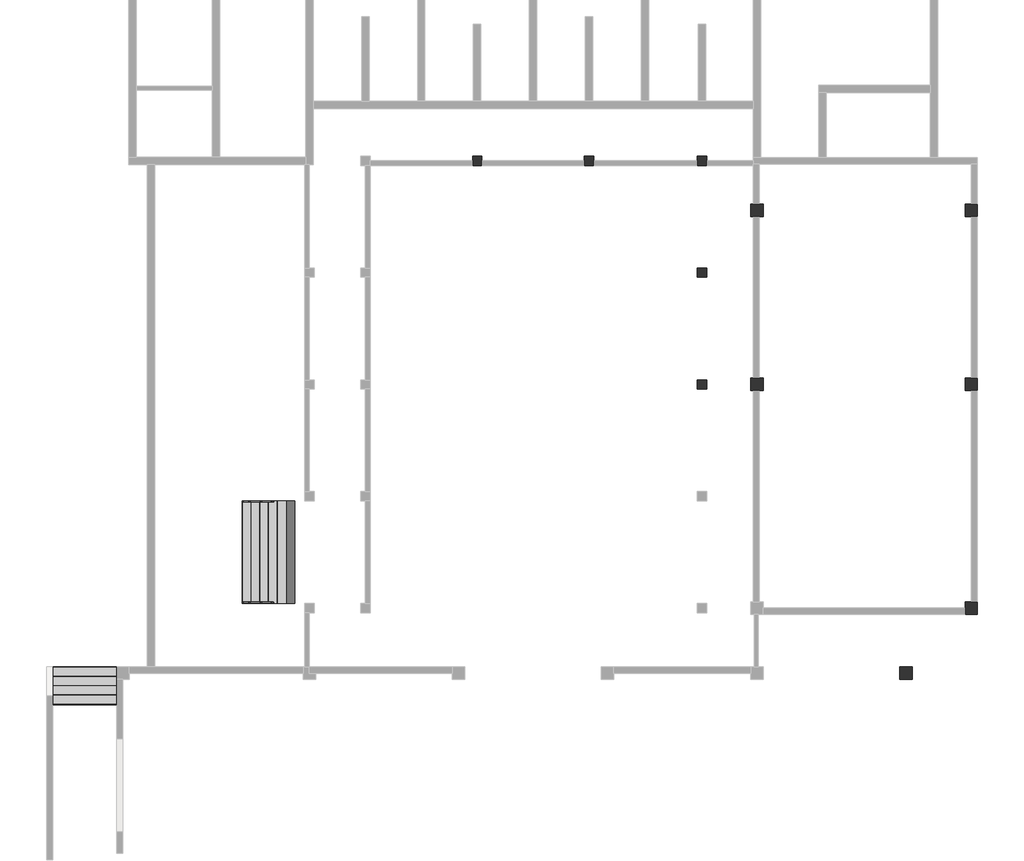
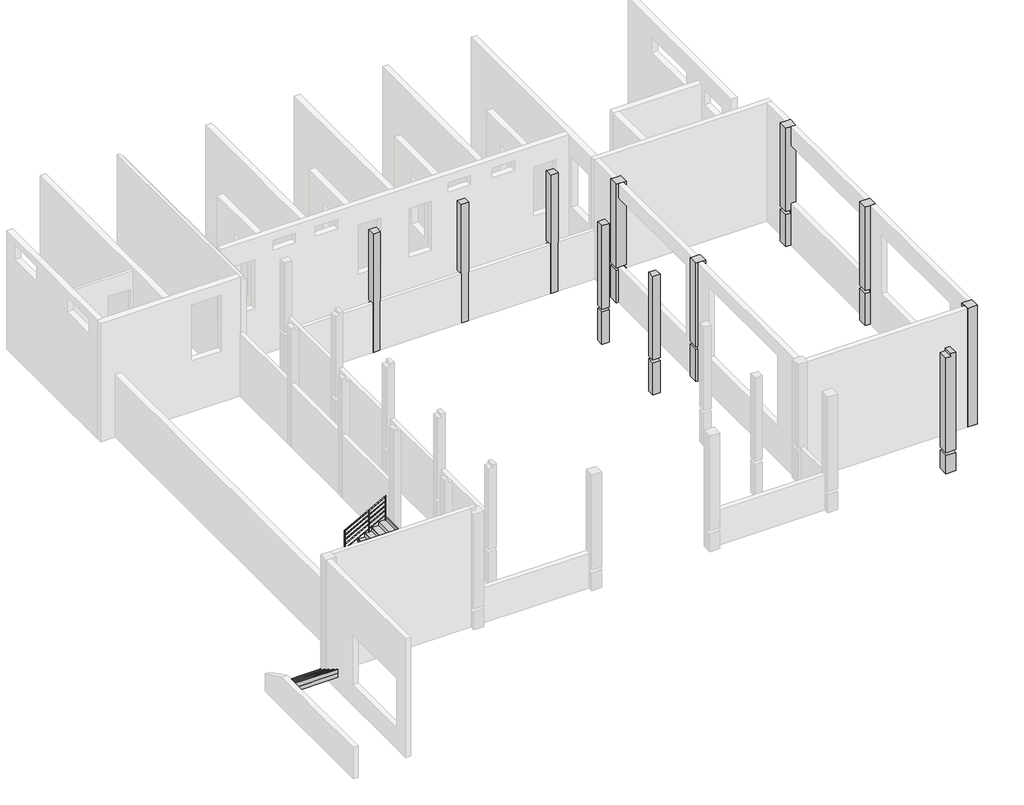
# One storey, part 3 of 3: 11 columns, 2 railings, 2 stair flights.
"""IFC4 building model written with IfcOpenShell, lengths in millimetres."""

from ifc_helpers import new_model, si_unit, frame, origin, origin_with_axes, place, context, project, spatial, polyline, circle_curve, ellipse_curve, outline, extrude, faceted_brep, element, save
from ifc_brep_helpers import plane_surface, cylinder_surface, advanced_brep

model = new_model("IFC4")

# Units and contexts
model_context = context("Model", 3, world=origin())
ifc_project = project(units=[si_unit("LENGTHUNIT", "METRE", prefix="MILLI")], contexts=[model_context])

# Site, building, storey
site = spatial("IfcSite", under=ifc_project)
building = spatial("IfcBuilding", under=site)
storey = spatial("IfcBuildingStorey", under=building, Name="室外地坪", Elevation=-900.0)

# Columns
placement = place(None, origin())
element("IfcColumn", 1, ObjectType="混凝土 - 矩形 - 柱 : Z1-400 x 400mm", at=placement, inside=storey, context=model_context, shape_type="Brep", body=[
    faceted_brep([(11736.7377372, 15644.1658649, -900.0), (11736.7377372, 15244.1658649, -900.0), (11616.7377372, 15244.1658649, -900.0), (11416.7377372, 15244.1658649, -900.0), (11336.7377372, 15244.1658649, -900.0), (11336.7377372, 15644.1658649, -900.0), (11416.7377372, 15644.1658649, -900.0), (11616.7377372, 15644.1658649, -900.0), (11736.7377372, 15244.1658649, 480.0), (11736.7377372, 15644.1658649, 480.0), (11336.7377372, 15644.1658649, 480.0), (11336.7377372, 15244.1658649, 480.0)], [[[0, 1, 2, 3, 4, 5, 6, 7]], [[8, 9, 10, 11]], [[1, 0, 9, 8]], [[4, 3, 2, 1, 8, 11]], [[5, 4, 11, 10]], [[0, 7, 6, 5, 10, 9]]]),
    faceted_brep([(11736.7377372, 15644.1658649, 4200.0), (11736.7377372, 15244.1658649, 4200.0), (11736.7377372, 15244.1658649, 600.0), (11736.7377372, 15644.1658649, 600.0), (11616.7377372, 15244.1658649, 4200.0), (11416.7377372, 15244.1658649, 4200.0), (11336.7377372, 15244.1658649, 4200.0), (11336.7377372, 15244.1658649, 600.0), (11336.7377372, 15644.1658649, 4200.0), (11336.7377372, 15644.1658649, 600.0), (11416.7377372, 15644.1658649, 4200.0), (11616.7377372, 15644.1658649, 4200.0)], [[[0, 1, 2, 3]], [[1, 4, 5, 6, 7, 2]], [[6, 8, 9, 7]], [[8, 10, 11, 0, 3, 9]], [[1, 0, 11, 10, 8, 6, 5, 4]], [[3, 2, 7, 9]]]),
])
element("IfcColumn", 2, ObjectType="混凝土 - 矩形 - 柱 : Z1-400 x 400mm", at=placement, inside=storey, context=model_context, shape_type="Brep", body=[
    faceted_brep([(18636.7377372, 15644.1658649, -900.0), (18636.7377372, 15244.1658649, -900.0), (18436.7377372, 15244.1658649, -900.0), (18236.7377372, 15244.1658649, -900.0), (18236.7377372, 15644.1658649, -900.0), (18436.7377372, 15644.1658649, -900.0), (18636.7377372, 15644.1658649, 4200.0), (18636.7377372, 15244.1658649, 4200.0), (18636.7377372, 15244.1658649, 3400.0), (18636.7377372, 15244.1658649, 900.0), (18436.7377372, 15244.1658649, 4200.0), (18236.7377372, 15244.1658649, 4200.0), (18236.7377372, 15244.1658649, 600.0), (18436.7377372, 15244.1658649, 600.0), (18436.7377372, 15244.1658649, 480.0), (18236.7377372, 15244.1658649, 480.0), (18236.7377372, 15644.1658649, 4200.0), (18236.7377372, 15644.1658649, 600.0), (18236.7377372, 15644.1658649, 480.0), (18436.7377372, 15644.1658649, 480.0), (18436.7377372, 15644.1658649, 600.0), (18436.7377372, 15644.1658649, 4200.0)], [[[0, 1, 2, 3, 4, 5]], [[1, 0, 6, 7, 8, 9]], [[3, 2, 1, 9, 8, 7, 10, 11, 12, 13, 14, 15]], [[11, 16, 17, 12]], [[0, 5, 4, 18, 19, 20, 17, 16, 21, 6]], [[7, 6, 21, 16, 11, 10]], [[14, 19, 18, 15]], [[20, 13, 12, 17]], [[19, 14, 13, 20]], [[4, 3, 15, 18]]]),
])
element("IfcColumn", 3, ObjectType="混凝土 - 矩形 - 柱 : Z1-400 x 400mm", at=placement, inside=storey, context=model_context, shape_type="Brep", body=[
    faceted_brep([(11736.7377372, 10044.1658649, -900.0), (11736.7377372, 9644.1658649, -900.0), (11616.7377372, 9644.1658649, -900.0), (11416.7377372, 9644.1658649, -900.0), (11336.7377372, 9644.1658649, -900.0), (11336.7377372, 10044.1658649, -900.0), (11416.7377372, 10044.1658649, -900.0), (11616.7377372, 10044.1658649, -900.0), (11736.7377372, 9644.1658649, 480.0), (11736.7377372, 10044.1658649, 480.0), (11336.7377372, 10044.1658649, 480.0), (11336.7377372, 9644.1658649, 480.0)], [[[0, 1, 2, 3, 4, 5, 6, 7]], [[8, 9, 10, 11]], [[1, 0, 9, 8]], [[4, 3, 2, 1, 8, 11]], [[5, 4, 11, 10]], [[0, 7, 6, 5, 10, 9]]]),
    faceted_brep([(11736.7377372, 10044.1658649, 4200.0), (11736.7377372, 9644.1658649, 4200.0), (11736.7377372, 9644.1658649, 600.0), (11736.7377372, 10044.1658649, 600.0), (11616.7377372, 9644.1658649, 4200.0), (11416.7377372, 9644.1658649, 4200.0), (11336.7377372, 9644.1658649, 4200.0), (11336.7377372, 9644.1658649, 600.0), (11336.7377372, 10044.1658649, 4200.0), (11336.7377372, 10044.1658649, 600.0), (11416.7377372, 10044.1658649, 4200.0), (11616.7377372, 10044.1658649, 4200.0)], [[[0, 1, 2, 3]], [[1, 4, 5, 6, 7, 2]], [[6, 8, 9, 7]], [[8, 10, 11, 0, 3, 9]], [[1, 0, 11, 10, 8, 6, 5, 4]], [[3, 2, 7, 9]]]),
])
element("IfcColumn", 4, ObjectType="混凝土 - 矩形 - 柱 : Z1-400 x 400mm", at=placement, inside=storey, context=model_context, shape_type="Brep", body=[
    faceted_brep([(18636.7377372, 10044.1658649, -900.0), (18636.7377372, 9644.1658649, -900.0), (18436.7377372, 9644.1658649, -900.0), (18236.7377372, 9644.1658649, -900.0), (18236.7377372, 10044.1658649, -900.0), (18436.7377372, 10044.1658649, -900.0), (18636.7377372, 10044.1658649, 4200.0), (18636.7377372, 9644.1658649, 4200.0), (18436.7377372, 9644.1658649, 4200.0), (18236.7377372, 9644.1658649, 4200.0), (18236.7377372, 9644.1658649, 600.0), (18436.7377372, 9644.1658649, 600.0), (18436.7377372, 9644.1658649, 480.0), (18236.7377372, 9644.1658649, 480.0), (18236.7377372, 10044.1658649, 4200.0), (18236.7377372, 10044.1658649, 600.0), (18236.7377372, 10044.1658649, 480.0), (18436.7377372, 10044.1658649, 480.0), (18436.7377372, 10044.1658649, 600.0), (18436.7377372, 10044.1658649, 4200.0)], [[[0, 1, 2, 3, 4, 5]], [[1, 0, 6, 7]], [[3, 2, 1, 7, 8, 9, 10, 11, 12, 13]], [[9, 14, 15, 10]], [[0, 5, 4, 16, 17, 18, 15, 14, 19, 6]], [[7, 6, 19, 14, 9, 8]], [[12, 17, 16, 13]], [[18, 11, 10, 15]], [[17, 12, 11, 18]], [[4, 3, 13, 16]]]),
])
element("IfcColumn", 5, ObjectType="混凝土 - 矩形 - 柱 : Z1-400 x 400mm", at=placement, inside=storey, context=model_context, shape_type="Brep", body=[
    faceted_brep([(18636.7377372, 2844.1658649, -900.0), (18636.7377372, 2444.1658649, -900.0), (18236.7377372, 2444.1658649, -900.0), (18236.7377372, 2644.1658649, -900.0), (18236.7377372, 2844.1658649, -900.0), (18436.7377372, 2844.1658649, -900.0), (18636.7377372, 2844.1658649, 4200.0), (18636.7377372, 2444.1658649, 4200.0), (18236.7377372, 2444.1658649, 4200.0), (18236.7377372, 2644.1658649, 4200.0), (18236.7377372, 2844.1658649, 4200.0), (18236.7377372, 2844.1658649, 600.0), (18236.7377372, 2644.1658649, 600.0), (18236.7377372, 2644.1658649, 480.0), (18236.7377372, 2844.1658649, 480.0), (18436.7377372, 2844.1658649, 480.0), (18436.7377372, 2844.1658649, 600.0), (18436.7377372, 2844.1658649, 4200.0), (18436.7377372, 2644.1658649, 480.0), (18436.7377372, 2644.1658649, 600.0)], [[[0, 1, 2, 3, 4, 5]], [[1, 0, 6, 7]], [[2, 1, 7, 8]], [[4, 3, 2, 8, 9, 10, 11, 12, 13, 14]], [[0, 5, 4, 14, 15, 16, 11, 10, 17, 6]], [[7, 6, 17, 10, 9, 8]], [[13, 18, 15, 14]], [[16, 19, 12, 11]], [[18, 19, 16, 15]], [[19, 18, 13, 12]]]),
])
element("IfcColumn", 6, ObjectType="混凝土 - 矩形 - 柱 : Z1-400 x 400mm", at=placement, inside=storey, context=model_context, shape_type="SweptSolid", body=[
    extrude(outline(polyline([(16536.7377372, 744.1658649), (16536.7377372, 344.1658649), (16136.7377372, 344.1658649), (16136.7377372, 744.1658649), (16536.7377372, 744.1658649)])), frame((0.0, 0.0, -900.0), z_axis=(0.0, 0.0, 1.0), x_axis=(1.0, 0.0, 0.0)), (0.0, 0.0, 1.0), 780.0),
    extrude(outline(polyline([(0.0, 16536.7377372), (4200.0, 16536.7377372), (4200.0, 16341.7377372), (4080.0, 16341.7377372), (4080.0, 16136.7377372), (0.0, 16136.7377372), (0.0, 16536.7377372)])), frame((0.0, 344.1658649, 0.0), z_axis=(0.0, 1.0, 0.0), x_axis=(0.0, 0.0, 1.0)), (0.0, 0.0, 1.0), 400.0),
])
element("IfcColumn", 7, ObjectType="混凝土 - 矩形 - 柱 : Z2-300 x 300mm", at=placement, inside=storey, context=model_context, shape_type="Brep", body=[
    faceted_brep([(9916.7377372, 17194.1658649, -900.0), (9916.7377372, 17044.1658649, -900.0), (9916.7377372, 16894.1658649, -900.0), (9616.7377372, 16894.1658649, -900.0), (9616.7377372, 17044.1658649, -900.0), (9616.7377372, 17194.1658649, -900.0), (9916.7377372, 17194.1658649, 1080.0), (9916.7377372, 17039.1658649, 1080.0), (9916.7377372, 17039.1658649, 1200.0), (9916.7377372, 17194.1658649, 1200.0), (9916.7377372, 17194.1658649, 4200.0), (9916.7377372, 16894.1658649, 4200.0), (9916.7377372, 16894.1658649, 1200.0), (9616.7377372, 16894.1658649, 4200.0), (9616.7377372, 16894.1658649, 1200.0), (9616.7377372, 17194.1658649, 4200.0), (9616.7377372, 17194.1658649, 1200.0), (9616.7377372, 17039.1658649, 1200.0), (9616.7377372, 17039.1658649, 1080.0), (9616.7377372, 17194.1658649, 1080.0)], [[[0, 1, 2, 3, 4, 5]], [[2, 1, 0, 6, 7, 8, 9, 10, 11, 12]], [[3, 2, 12, 11, 13, 14]], [[5, 4, 3, 14, 13, 15, 16, 17, 18, 19]], [[15, 10, 9, 16]], [[11, 10, 15, 13]], [[18, 7, 6, 19]], [[8, 17, 16, 9]], [[7, 18, 17, 8]], [[0, 5, 19, 6]]]),
])
element("IfcColumn", 8, ObjectType="混凝土 - 矩形 - 柱 : Z2-300 x 300mm", at=placement, inside=storey, context=model_context, shape_type="SweptSolid", body=[
    extrude(outline(polyline([(9916.7377372, 9994.1658649), (9916.7377372, 9694.1658649), (9616.7377372, 9694.1658649), (9616.7377372, 9994.1658649), (9916.7377372, 9994.1658649)])), frame((0.0, 0.0, -900.0), z_axis=(0.0, 0.0, 1.0), x_axis=(1.0, 0.0, 0.0)), (0.0, 0.0, 1.0), 1380.0),
    extrude(outline(polyline([(9916.7377372, 9994.1658649), (9916.7377372, 9694.1658649), (9616.7377372, 9694.1658649), (9616.7377372, 9994.1658649), (9916.7377372, 9994.1658649)])), frame((0.0, 0.0, 600.0), z_axis=(0.0, 0.0, 1.0), x_axis=(1.0, 0.0, 0.0)), (0.0, 0.0, 1.0), 3600.0),
])
element("IfcColumn", 9, ObjectType="混凝土 - 矩形 - 柱 : Z2-300 x 300mm", at=placement, inside=storey, context=model_context, shape_type="Brep", body=[
    faceted_brep([(2686.7377372, 17194.1658649, -900.0), (2686.7377372, 17044.1658649, -900.0), (2686.7377372, 16894.1658649, -900.0), (2386.7377372, 16894.1658649, -900.0), (2386.7377372, 17044.1658649, -900.0), (2386.7377372, 17194.1658649, -900.0), (2686.7377372, 17194.1658649, 1080.0), (2686.7377372, 17039.1658649, 1080.0), (2686.7377372, 17039.1658649, 1200.0), (2686.7377372, 17194.1658649, 1200.0), (2686.7377372, 17194.1658649, 4200.0), (2686.7377372, 16894.1658649, 4200.0), (2686.7377372, 16894.1658649, 1200.0), (2386.7377372, 16894.1658649, 4200.0), (2386.7377372, 16894.1658649, 1200.0), (2386.7377372, 17194.1658649, 4200.0), (2386.7377372, 17194.1658649, 1200.0), (2386.7377372, 17039.1658649, 1200.0), (2386.7377372, 17039.1658649, 1080.0), (2386.7377372, 17194.1658649, 1080.0)], [[[0, 1, 2, 3, 4, 5]], [[2, 1, 0, 6, 7, 8, 9, 10, 11, 12]], [[3, 2, 12, 11, 13, 14]], [[5, 4, 3, 14, 13, 15, 16, 17, 18, 19]], [[15, 10, 9, 16]], [[11, 10, 15, 13]], [[18, 7, 6, 19]], [[8, 17, 16, 9]], [[7, 18, 17, 8]], [[0, 5, 19, 6]]]),
])
element("IfcColumn", 10, ObjectType="混凝土 - 矩形 - 柱 : Z2-300 x 300mm", at=placement, inside=storey, context=model_context, shape_type="Brep", body=[
    faceted_brep([(6286.7377372, 17194.1658649, -900.0), (6286.7377372, 17044.1658649, -900.0), (6286.7377372, 16894.1658649, -900.0), (5986.7377372, 16894.1658649, -900.0), (5986.7377372, 17044.1658649, -900.0), (5986.7377372, 17194.1658649, -900.0), (6286.7377372, 17194.1658649, 1080.0), (6286.7377372, 17039.1658649, 1080.0), (6286.7377372, 17039.1658649, 1200.0), (6286.7377372, 17194.1658649, 1200.0), (6286.7377372, 17194.1658649, 4200.0), (6286.7377372, 16894.1658649, 4200.0), (6286.7377372, 16894.1658649, 1200.0), (5986.7377372, 16894.1658649, 4200.0), (5986.7377372, 16894.1658649, 1200.0), (5986.7377372, 17194.1658649, 4200.0), (5986.7377372, 17194.1658649, 1200.0), (5986.7377372, 17039.1658649, 1200.0), (5986.7377372, 17039.1658649, 1080.0), (5986.7377372, 17194.1658649, 1080.0)], [[[0, 1, 2, 3, 4, 5]], [[2, 1, 0, 6, 7, 8, 9, 10, 11, 12]], [[3, 2, 12, 11, 13, 14]], [[5, 4, 3, 14, 13, 15, 16, 17, 18, 19]], [[15, 10, 9, 16]], [[11, 10, 15, 13]], [[18, 7, 6, 19]], [[8, 17, 16, 9]], [[7, 18, 17, 8]], [[0, 5, 19, 6]]]),
])
element("IfcColumn", 11, ObjectType="混凝土 - 矩形 - 柱 : Z2-300 x 300mm", at=placement, inside=storey, context=model_context, shape_type="SweptSolid", body=[
    extrude(outline(polyline([(9916.7377372, 13594.1658649), (9916.7377372, 13294.1658649), (9616.7377372, 13294.1658649), (9616.7377372, 13594.1658649), (9916.7377372, 13594.1658649)])), frame((0.0, 0.0, -900.0), z_axis=(0.0, 0.0, 1.0), x_axis=(1.0, 0.0, 0.0)), (0.0, 0.0, 1.0), 1380.0),
    extrude(outline(polyline([(9916.7377372, 13594.1658649), (9916.7377372, 13294.1658649), (9616.7377372, 13294.1658649), (9616.7377372, 13594.1658649), (9916.7377372, 13594.1658649)])), frame((0.0, 0.0, 600.0), z_axis=(0.0, 0.0, 1.0), x_axis=(1.0, 0.0, 0.0)), (0.0, 0.0, 1.0), 3600.0),
])

# Railings
element("IfcRailing", 12, ObjectType="900mm 圆管", at=placement, inside=storey, context=model_context, shape_type="AdvancedBrep", body=[
    advanced_brep(
    [(-5021.5534658, 2804.8548575, 577.3108855), (-5021.5534658, 2844.8548575, 577.3108855), (-3341.5534658, 2804.8548575, 1477.3108855), (-3341.5534658, 2844.8548575, 1477.3108855)],
    [
        (0, 1, ellipse_curve(frame((-5021.5534658, 2824.8548575, 577.3108855), z_axis=(-1.0, 0.0, 0.0), x_axis=(0.0, 0.0, -1.0)), 22.6891145, 20.0)),
        (1, 0, ellipse_curve(frame((-5021.5534658, 2824.8548575, 577.3108855), z_axis=(-1.0, 0.0, 0.0), x_axis=(0.0, 0.0, -1.0)), 22.6891145, 20.0)),
        (2, 3, ellipse_curve(frame((-3341.5534658, 2824.8548575, 1477.3108855), z_axis=(1.0, 0.0, 0.0), x_axis=(0.0, 0.0, -1.0)), 22.6891145, 20.0)),
        (3, 2, ellipse_curve(frame((-3341.5534658, 2824.8548575, 1477.3108855), z_axis=(1.0, 0.0, 0.0), x_axis=(0.0, 0.0, -1.0)), 22.6891145, 20.0)),
        (0, 2),
        (3, 1),
    ],
    [
        plane_surface(frame((-5021.5534658, 2824.8548575, 600.0), z_axis=(-1.0, 0.0, 0.0), x_axis=(0.0, 1.0, 0.0))),
        plane_surface(frame((-3341.5534658, 2824.8548575, 1500.0), z_axis=(1.0, 0.0, 0.0), x_axis=(0.0, 1.0, 0.0))),
        cylinder_surface(frame((-5012.1090375, 2824.8548575, 582.3704006), z_axis=(-0.881479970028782, 0.0, -0.47222141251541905), x_axis=(0.0, 1.0, 0.0)), 20.0),
    ],
    [
        (0, [[1, 2]]),
        (1, [[3, 4]]),
        (2, [[-1, 5, -4, 6]]),
        (2, [[-2, -6, -3, -5]]),
    ],
),
    advanced_brep(
    [(-5021.5534658, 2839.8548575, 382.9831641), (-5021.5534658, 2809.8548575, 382.9831641), (-3341.5534658, 2839.8548575, 1282.9831641), (-3341.5534658, 2809.8548575, 1282.9831641)],
    [
        (0, 1, ellipse_curve(frame((-5021.5534658, 2824.8548575, 382.9831641), z_axis=(-1.0, 0.0, 0.0), x_axis=(0.0, 0.0, -1.0)), 17.0168359, 15.0)),
        (1, 0, ellipse_curve(frame((-5021.5534658, 2824.8548575, 382.9831641), z_axis=(-1.0, 0.0, 0.0), x_axis=(0.0, 0.0, -1.0)), 17.0168359, 15.0)),
        (2, 3, ellipse_curve(frame((-3341.5534658, 2824.8548575, 1282.9831641), z_axis=(1.0, 0.0, 0.0), x_axis=(0.0, 0.0, -1.0)), 17.0168359, 15.0)),
        (3, 2, ellipse_curve(frame((-3341.5534658, 2824.8548575, 1282.9831641), z_axis=(1.0, 0.0, 0.0), x_axis=(0.0, 0.0, -1.0)), 17.0168359, 15.0)),
        (0, 2),
        (3, 1),
    ],
    [
        plane_surface(frame((-5021.5534658, 2824.8548575, 400.0), z_axis=(-1.0, 0.0, 0.0), x_axis=(0.0, 1.0, 0.0))),
        plane_surface(frame((-3341.5534658, 2824.8548575, 1300.0), z_axis=(1.0, 0.0, 0.0), x_axis=(0.0, 1.0, 0.0))),
        cylinder_surface(frame((-5014.4701446, 2824.8548575, 386.7778004), z_axis=(-0.881479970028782, 0.0, -0.47222141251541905), x_axis=(0.0, -1.0, 0.0)), 15.0),
    ],
    [
        (0, [[1, 2]]),
        (1, [[3, 4]]),
        (2, [[-1, 5, -4, 6]]),
        (2, [[-2, -6, -3, -5]]),
    ],
),
    advanced_brep(
    [(-5021.5534658, 2839.8548575, 182.9831641), (-5021.5534658, 2809.8548575, 182.9831641), (-3341.5534658, 2839.8548575, 1082.9831641), (-3341.5534658, 2809.8548575, 1082.9831641)],
    [
        (0, 1, ellipse_curve(frame((-5021.5534658, 2824.8548575, 182.9831641), z_axis=(-1.0, 0.0, 0.0), x_axis=(0.0, 0.0, -1.0)), 17.0168359, 15.0)),
        (1, 0, ellipse_curve(frame((-5021.5534658, 2824.8548575, 182.9831641), z_axis=(-1.0, 0.0, 0.0), x_axis=(0.0, 0.0, -1.0)), 17.0168359, 15.0)),
        (2, 3, ellipse_curve(frame((-3341.5534658, 2824.8548575, 1082.9831641), z_axis=(1.0, 0.0, 0.0), x_axis=(0.0, 0.0, -1.0)), 17.0168359, 15.0)),
        (3, 2, ellipse_curve(frame((-3341.5534658, 2824.8548575, 1082.9831641), z_axis=(1.0, 0.0, 0.0), x_axis=(0.0, 0.0, -1.0)), 17.0168359, 15.0)),
        (0, 2),
        (3, 1),
    ],
    [
        plane_surface(frame((-5021.5534658, 2824.8548575, 200.0), z_axis=(-1.0, 0.0, 0.0), x_axis=(0.0, 1.0, 0.0))),
        plane_surface(frame((-3341.5534658, 2824.8548575, 1100.0), z_axis=(1.0, 0.0, 0.0), x_axis=(0.0, 1.0, 0.0))),
        cylinder_surface(frame((-5014.4701446, 2824.8548575, 186.7778004), z_axis=(-0.881479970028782, 0.0, -0.47222141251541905), x_axis=(0.0, -1.0, 0.0)), 15.0),
    ],
    [
        (0, [[1, 2]]),
        (1, [[3, 4]]),
        (2, [[-1, 5, -4, 6]]),
        (2, [[-2, -6, -3, -5]]),
    ],
),
    advanced_brep(
    [(-5021.5534658, 2839.8548575, -17.0168359), (-5021.5534658, 2809.8548575, -17.0168359), (-3341.5534658, 2839.8548575, 882.9831641), (-3341.5534658, 2809.8548575, 882.9831641)],
    [
        (0, 1, ellipse_curve(frame((-5021.5534658, 2824.8548575, -17.0168359), z_axis=(-1.0, 0.0, 0.0), x_axis=(0.0, 0.0, -1.0)), 17.0168359, 15.0)),
        (1, 0, ellipse_curve(frame((-5021.5534658, 2824.8548575, -17.0168359), z_axis=(-1.0, 0.0, 0.0), x_axis=(0.0, 0.0, -1.0)), 17.0168359, 15.0)),
        (2, 3, ellipse_curve(frame((-3341.5534658, 2824.8548575, 882.9831641), z_axis=(1.0, 0.0, 0.0), x_axis=(0.0, 0.0, -1.0)), 17.0168359, 15.0)),
        (3, 2, ellipse_curve(frame((-3341.5534658, 2824.8548575, 882.9831641), z_axis=(1.0, 0.0, 0.0), x_axis=(0.0, 0.0, -1.0)), 17.0168359, 15.0)),
        (0, 2),
        (3, 1),
    ],
    [
        plane_surface(frame((-5021.5534658, 2824.8548575, 0.0), z_axis=(-1.0, 0.0, 0.0), x_axis=(0.0, 1.0, 0.0))),
        plane_surface(frame((-3341.5534658, 2824.8548575, 900.0), z_axis=(1.0, 0.0, 0.0), x_axis=(0.0, 1.0, 0.0))),
        cylinder_surface(frame((-5014.4701446, 2824.8548575, -13.2221996), z_axis=(-0.881479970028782, 0.0, -0.47222141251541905), x_axis=(0.0, -1.0, 0.0)), 15.0),
    ],
    [
        (0, [[1, 2]]),
        (1, [[3, 4]]),
        (2, [[-1, 5, -4, 6]]),
        (2, [[-2, -6, -3, -5]]),
    ],
),
    advanced_brep(
    [(-5021.5534658, 2839.8548575, -217.0168359), (-5021.5534658, 2809.8548575, -217.0168359), (-3341.5534658, 2839.8548575, 682.9831641), (-3341.5534658, 2809.8548575, 682.9831641)],
    [
        (0, 1, ellipse_curve(frame((-5021.5534658, 2824.8548575, -217.0168359), z_axis=(-1.0, 0.0, 0.0), x_axis=(0.0, 0.0, -1.0)), 17.0168359, 15.0)),
        (1, 0, ellipse_curve(frame((-5021.5534658, 2824.8548575, -217.0168359), z_axis=(-1.0, 0.0, 0.0), x_axis=(0.0, 0.0, -1.0)), 17.0168359, 15.0)),
        (2, 3, ellipse_curve(frame((-3341.5534658, 2824.8548575, 682.9831641), z_axis=(1.0, 0.0, 0.0), x_axis=(0.0, 0.0, -1.0)), 17.0168359, 15.0)),
        (3, 2, ellipse_curve(frame((-3341.5534658, 2824.8548575, 682.9831641), z_axis=(1.0, 0.0, 0.0), x_axis=(0.0, 0.0, -1.0)), 17.0168359, 15.0)),
        (0, 2),
        (3, 1),
    ],
    [
        plane_surface(frame((-5021.5534658, 2824.8548575, -200.0), z_axis=(-1.0, 0.0, 0.0), x_axis=(0.0, 1.0, 0.0))),
        plane_surface(frame((-3341.5534658, 2824.8548575, 700.0), z_axis=(1.0, 0.0, 0.0), x_axis=(0.0, 1.0, 0.0))),
        cylinder_surface(frame((-5014.4701446, 2824.8548575, -213.2221996), z_axis=(-0.881479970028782, 0.0, -0.47222141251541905), x_axis=(0.0, -1.0, 0.0)), 15.0),
    ],
    [
        (0, [[1, 2]]),
        (1, [[3, 4]]),
        (2, [[-1, 5, -4, 6]]),
        (2, [[-2, -6, -3, -5]]),
    ],
),
    advanced_brep(
    [(-4021.5534658, 2812.3548575, 1090.3360566), (-4021.5534658, 2812.3548575, 150.0), (-4021.5534658, 2837.3548575, 150.0), (-4021.5534658, 2837.3548575, 1090.3360566)],
    [
        (0, 1),
        (1, 2, circle_curve(frame((-4021.5534658, 2824.8548575, 150.0), z_axis=(0.0, 0.0, 1.0), x_axis=(0.0, 1.0, 0.0)), 12.5)),
        (2, 3),
        (3, 0, ellipse_curve(frame((-4021.5534658, 2824.8548575, 1090.3360566), z_axis=(0.472221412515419, 0.0, -0.8814799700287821), x_axis=(0.8814799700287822, 0.0, 0.47222141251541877)), 14.1806966, 12.5)),
        (0, 3, ellipse_curve(frame((-4021.5534658, 2824.8548575, 1090.3360566), z_axis=(0.472221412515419, 0.0, -0.8814799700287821), x_axis=(0.8814799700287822, 0.0, 0.47222141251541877)), 14.1806966, 12.5)),
        (2, 1, circle_curve(frame((-4021.5534658, 2824.8548575, 150.0), z_axis=(0.0, 0.0, 1.0), x_axis=(0.0, 1.0, 0.0)), 12.5)),
    ],
    [
        cylinder_surface(frame((-4021.5534658, 2824.8548575, 50.0), z_axis=(0.0, 0.0, 1.0), x_axis=(0.0, 1.0, 0.0)), 12.5),
        plane_surface(frame((-3996.5534658, 2849.8548575, 1103.7289138), z_axis=(-0.472221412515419, 0.0, 0.8814799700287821), x_axis=(0.0, -1.0, 0.0))),
        plane_surface(frame((-4046.5534658, 2849.8548575, 150.0), z_axis=(0.0, 0.0, -1.0), x_axis=(0.0, -1.0, 0.0))),
    ],
    [
        (0, [[1, 2, 3, 4]]),
        (0, [[-1, 5, -3, 6]]),
        (1, [[-4, -5]]),
        (2, [[-2, -6]]),
    ],
),
    advanced_brep(
    [(-3354.0534658, 2812.3548575, 1447.9253424), (-3354.0534658, 2812.3548575, 450.0), (-3354.0534658, 2837.3548575, 450.0), (-3354.0534658, 2837.3548575, 1447.9253424)],
    [
        (0, 1),
        (1, 2, circle_curve(frame((-3354.0534658, 2824.8548575, 450.0), z_axis=(0.0, 0.0, 1.0), x_axis=(0.0, 1.0, 0.0)), 12.5)),
        (2, 3),
        (3, 0, ellipse_curve(frame((-3354.0534658, 2824.8548575, 1447.9253424), z_axis=(0.472221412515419, 0.0, -0.8814799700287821), x_axis=(0.8814799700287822, 0.0, 0.47222141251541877)), 14.1806966, 12.5)),
        (0, 3, ellipse_curve(frame((-3354.0534658, 2824.8548575, 1447.9253424), z_axis=(0.472221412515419, 0.0, -0.8814799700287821), x_axis=(0.8814799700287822, 0.0, 0.47222141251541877)), 14.1806966, 12.5)),
        (2, 1, circle_curve(frame((-3354.0534658, 2824.8548575, 450.0), z_axis=(0.0, 0.0, 1.0), x_axis=(0.0, 1.0, 0.0)), 12.5)),
    ],
    [
        cylinder_surface(frame((-3354.0534658, 2824.8548575, 350.0), z_axis=(0.0, 0.0, 1.0), x_axis=(0.0, 1.0, 0.0)), 12.5),
        plane_surface(frame((-3329.0534658, 2849.8548575, 1461.3181995), z_axis=(-0.472221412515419, 0.0, 0.8814799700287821), x_axis=(0.0, -1.0, 0.0))),
        plane_surface(frame((-3379.0534658, 2849.8548575, 450.0), z_axis=(0.0, 0.0, -1.0), x_axis=(0.0, -1.0, 0.0))),
    ],
    [
        (0, [[1, 2, 3, 4]]),
        (0, [[-1, 5, -3, 6]]),
        (1, [[-4, -5]]),
        (2, [[-2, -6]]),
    ],
),
    advanced_brep(
    [(-5009.0534658, 2812.3548575, 561.3181995), (-5009.0534658, 2812.3548575, -300.0), (-5009.0534658, 2837.3548575, -300.0), (-5009.0534658, 2837.3548575, 561.3181995)],
    [
        (0, 1),
        (1, 2, circle_curve(frame((-5009.0534658, 2824.8548575, -300.0), z_axis=(0.0, 0.0, 1.0), x_axis=(0.0, 1.0, 0.0)), 12.5)),
        (2, 3),
        (3, 0, ellipse_curve(frame((-5009.0534658, 2824.8548575, 561.3181995), z_axis=(0.472221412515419, 0.0, -0.8814799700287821), x_axis=(0.8814799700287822, 0.0, 0.47222141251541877)), 14.1806966, 12.5)),
        (0, 3, ellipse_curve(frame((-5009.0534658, 2824.8548575, 561.3181995), z_axis=(0.472221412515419, 0.0, -0.8814799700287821), x_axis=(0.8814799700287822, 0.0, 0.47222141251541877)), 14.1806966, 12.5)),
        (2, 1, circle_curve(frame((-5009.0534658, 2824.8548575, -300.0), z_axis=(0.0, 0.0, 1.0), x_axis=(0.0, 1.0, 0.0)), 12.5)),
    ],
    [
        cylinder_surface(frame((-5009.0534658, 2824.8548575, -400.0), z_axis=(0.0, 0.0, 1.0), x_axis=(0.0, 1.0, 0.0)), 12.5),
        plane_surface(frame((-4984.0534658, 2849.8548575, 574.7110566), z_axis=(-0.472221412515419, 0.0, 0.8814799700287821), x_axis=(0.0, -1.0, 0.0))),
        plane_surface(frame((-5034.0534658, 2849.8548575, -300.0), z_axis=(0.0, 0.0, -1.0), x_axis=(0.0, -1.0, 0.0))),
    ],
    [
        (0, [[1, 2, 3, 4]]),
        (0, [[-1, 5, -3, 6]]),
        (1, [[-4, -5]]),
        (2, [[-2, -6]]),
    ],
),
])
element("IfcRailing", 13, ObjectType="900mm 圆管", at=placement, inside=storey, context=model_context, shape_type="AdvancedBrep", body=[
    advanced_brep(
    [(-5021.5534658, 6054.0548575, 577.3108855), (-5021.5534658, 6094.0548575, 577.3108855), (-3341.5534658, 6054.0548575, 1477.3108855), (-3341.5534658, 6094.0548575, 1477.3108855)],
    [
        (0, 1, ellipse_curve(frame((-5021.5534658, 6074.0548575, 577.3108855), z_axis=(-1.0, 0.0, 0.0), x_axis=(0.0, 0.0, -1.0)), 22.6891145, 20.0)),
        (1, 0, ellipse_curve(frame((-5021.5534658, 6074.0548575, 577.3108855), z_axis=(-1.0, 0.0, 0.0), x_axis=(0.0, 0.0, -1.0)), 22.6891145, 20.0)),
        (2, 3, ellipse_curve(frame((-3341.5534658, 6074.0548575, 1477.3108855), z_axis=(1.0, 0.0, 0.0), x_axis=(0.0, 0.0, -1.0)), 22.6891145, 20.0)),
        (3, 2, ellipse_curve(frame((-3341.5534658, 6074.0548575, 1477.3108855), z_axis=(1.0, 0.0, 0.0), x_axis=(0.0, 0.0, -1.0)), 22.6891145, 20.0)),
        (0, 2),
        (3, 1),
    ],
    [
        plane_surface(frame((-5021.5534658, 6074.0548575, 600.0), z_axis=(-1.0, 0.0, 0.0), x_axis=(0.0, 1.0, 0.0))),
        plane_surface(frame((-3341.5534658, 6074.0548575, 1500.0), z_axis=(1.0, 0.0, 0.0), x_axis=(0.0, 1.0, 0.0))),
        cylinder_surface(frame((-5012.1090375, 6074.0548575, 582.3704006), z_axis=(-0.881479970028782, 0.0, -0.47222141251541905), x_axis=(0.0, 1.0, 0.0)), 20.0),
    ],
    [
        (0, [[1, 2]]),
        (1, [[3, 4]]),
        (2, [[-1, 5, -4, 6]]),
        (2, [[-2, -6, -3, -5]]),
    ],
),
    advanced_brep(
    [(-5021.5534658, 6059.0548575, 382.9831641), (-5021.5534658, 6089.0548575, 382.9831641), (-3341.5534658, 6059.0548575, 1282.9831641), (-3341.5534658, 6089.0548575, 1282.9831641)],
    [
        (0, 1, ellipse_curve(frame((-5021.5534658, 6074.0548575, 382.9831641), z_axis=(-1.0, 0.0, 0.0), x_axis=(0.0, 0.0, -1.0)), 17.0168359, 15.0)),
        (1, 0, ellipse_curve(frame((-5021.5534658, 6074.0548575, 382.9831641), z_axis=(-1.0, 0.0, 0.0), x_axis=(0.0, 0.0, -1.0)), 17.0168359, 15.0)),
        (2, 3, ellipse_curve(frame((-3341.5534658, 6074.0548575, 1282.9831641), z_axis=(1.0, 0.0, 0.0), x_axis=(0.0, 0.0, -1.0)), 17.0168359, 15.0)),
        (3, 2, ellipse_curve(frame((-3341.5534658, 6074.0548575, 1282.9831641), z_axis=(1.0, 0.0, 0.0), x_axis=(0.0, 0.0, -1.0)), 17.0168359, 15.0)),
        (0, 2),
        (3, 1),
    ],
    [
        plane_surface(frame((-5021.5534658, 6074.0548575, 400.0), z_axis=(-1.0, 0.0, 0.0), x_axis=(0.0, 1.0, 0.0))),
        plane_surface(frame((-3341.5534658, 6074.0548575, 1300.0), z_axis=(1.0, 0.0, 0.0), x_axis=(0.0, 1.0, 0.0))),
        cylinder_surface(frame((-5014.4701446, 6074.0548575, 386.7778004), z_axis=(-0.881479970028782, 0.0, -0.47222141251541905), x_axis=(0.0, 1.0, 0.0)), 15.0),
    ],
    [
        (0, [[1, 2]]),
        (1, [[3, 4]]),
        (2, [[-1, 5, -4, 6]]),
        (2, [[-2, -6, -3, -5]]),
    ],
),
    advanced_brep(
    [(-5021.5534658, 6059.0548575, 182.9831641), (-5021.5534658, 6089.0548575, 182.9831641), (-3341.5534658, 6059.0548575, 1082.9831641), (-3341.5534658, 6089.0548575, 1082.9831641)],
    [
        (0, 1, ellipse_curve(frame((-5021.5534658, 6074.0548575, 182.9831641), z_axis=(-1.0, 0.0, 0.0), x_axis=(0.0, 0.0, -1.0)), 17.0168359, 15.0)),
        (1, 0, ellipse_curve(frame((-5021.5534658, 6074.0548575, 182.9831641), z_axis=(-1.0, 0.0, 0.0), x_axis=(0.0, 0.0, -1.0)), 17.0168359, 15.0)),
        (2, 3, ellipse_curve(frame((-3341.5534658, 6074.0548575, 1082.9831641), z_axis=(1.0, 0.0, 0.0), x_axis=(0.0, 0.0, -1.0)), 17.0168359, 15.0)),
        (3, 2, ellipse_curve(frame((-3341.5534658, 6074.0548575, 1082.9831641), z_axis=(1.0, 0.0, 0.0), x_axis=(0.0, 0.0, -1.0)), 17.0168359, 15.0)),
        (0, 2),
        (3, 1),
    ],
    [
        plane_surface(frame((-5021.5534658, 6074.0548575, 200.0), z_axis=(-1.0, 0.0, 0.0), x_axis=(0.0, 1.0, 0.0))),
        plane_surface(frame((-3341.5534658, 6074.0548575, 1100.0), z_axis=(1.0, 0.0, 0.0), x_axis=(0.0, 1.0, 0.0))),
        cylinder_surface(frame((-5014.4701446, 6074.0548575, 186.7778004), z_axis=(-0.881479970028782, 0.0, -0.47222141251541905), x_axis=(0.0, 1.0, 0.0)), 15.0),
    ],
    [
        (0, [[1, 2]]),
        (1, [[3, 4]]),
        (2, [[-1, 5, -4, 6]]),
        (2, [[-2, -6, -3, -5]]),
    ],
),
    advanced_brep(
    [(-5021.5534658, 6059.0548575, -17.0168359), (-5021.5534658, 6089.0548575, -17.0168359), (-3341.5534658, 6059.0548575, 882.9831641), (-3341.5534658, 6089.0548575, 882.9831641)],
    [
        (0, 1, ellipse_curve(frame((-5021.5534658, 6074.0548575, -17.0168359), z_axis=(-1.0, 0.0, 0.0), x_axis=(0.0, 0.0, -1.0)), 17.0168359, 15.0)),
        (1, 0, ellipse_curve(frame((-5021.5534658, 6074.0548575, -17.0168359), z_axis=(-1.0, 0.0, 0.0), x_axis=(0.0, 0.0, -1.0)), 17.0168359, 15.0)),
        (2, 3, ellipse_curve(frame((-3341.5534658, 6074.0548575, 882.9831641), z_axis=(1.0, 0.0, 0.0), x_axis=(0.0, 0.0, -1.0)), 17.0168359, 15.0)),
        (3, 2, ellipse_curve(frame((-3341.5534658, 6074.0548575, 882.9831641), z_axis=(1.0, 0.0, 0.0), x_axis=(0.0, 0.0, -1.0)), 17.0168359, 15.0)),
        (0, 2),
        (3, 1),
    ],
    [
        plane_surface(frame((-5021.5534658, 6074.0548575, 0.0), z_axis=(-1.0, 0.0, 0.0), x_axis=(0.0, 1.0, 0.0))),
        plane_surface(frame((-3341.5534658, 6074.0548575, 900.0), z_axis=(1.0, 0.0, 0.0), x_axis=(0.0, 1.0, 0.0))),
        cylinder_surface(frame((-5014.4701446, 6074.0548575, -13.2221996), z_axis=(-0.881479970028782, 0.0, -0.47222141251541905), x_axis=(0.0, 1.0, 0.0)), 15.0),
    ],
    [
        (0, [[1, 2]]),
        (1, [[3, 4]]),
        (2, [[-1, 5, -4, 6]]),
        (2, [[-2, -6, -3, -5]]),
    ],
),
    advanced_brep(
    [(-5021.5534658, 6059.0548575, -217.0168359), (-5021.5534658, 6089.0548575, -217.0168359), (-3341.5534658, 6059.0548575, 682.9831641), (-3341.5534658, 6089.0548575, 682.9831641)],
    [
        (0, 1, ellipse_curve(frame((-5021.5534658, 6074.0548575, -217.0168359), z_axis=(-1.0, 0.0, 0.0), x_axis=(0.0, 0.0, -1.0)), 17.0168359, 15.0)),
        (1, 0, ellipse_curve(frame((-5021.5534658, 6074.0548575, -217.0168359), z_axis=(-1.0, 0.0, 0.0), x_axis=(0.0, 0.0, -1.0)), 17.0168359, 15.0)),
        (2, 3, ellipse_curve(frame((-3341.5534658, 6074.0548575, 682.9831641), z_axis=(1.0, 0.0, 0.0), x_axis=(0.0, 0.0, -1.0)), 17.0168359, 15.0)),
        (3, 2, ellipse_curve(frame((-3341.5534658, 6074.0548575, 682.9831641), z_axis=(1.0, 0.0, 0.0), x_axis=(0.0, 0.0, -1.0)), 17.0168359, 15.0)),
        (0, 2),
        (3, 1),
    ],
    [
        plane_surface(frame((-5021.5534658, 6074.0548575, -200.0), z_axis=(-1.0, 0.0, 0.0), x_axis=(0.0, 1.0, 0.0))),
        plane_surface(frame((-3341.5534658, 6074.0548575, 700.0), z_axis=(1.0, 0.0, 0.0), x_axis=(0.0, 1.0, 0.0))),
        cylinder_surface(frame((-5014.4701446, 6074.0548575, -213.2221996), z_axis=(-0.881479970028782, 0.0, -0.47222141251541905), x_axis=(0.0, 1.0, 0.0)), 15.0),
    ],
    [
        (0, [[1, 2]]),
        (1, [[3, 4]]),
        (2, [[-1, 5, -4, 6]]),
        (2, [[-2, -6, -3, -5]]),
    ],
),
    advanced_brep(
    [(-4021.5534658, 6086.5548575, 1090.3360566), (-4021.5534658, 6061.5548575, 1090.3360566), (-4021.5534658, 6061.5548575, 150.0), (-4021.5534658, 6086.5548575, 150.0)],
    [
        (0, 1, ellipse_curve(frame((-4021.5534658, 6074.0548575, 1090.3360566), z_axis=(0.472221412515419, 0.0, -0.8814799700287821), x_axis=(0.8814799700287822, 0.0, 0.47222141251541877)), 14.1806966, 12.5)),
        (1, 2),
        (2, 3, circle_curve(frame((-4021.5534658, 6074.0548575, 150.0), z_axis=(0.0, 0.0, 1.0), x_axis=(0.0, -1.0, 0.0)), 12.5)),
        (3, 0),
        (3, 2, circle_curve(frame((-4021.5534658, 6074.0548575, 150.0), z_axis=(0.0, 0.0, 1.0), x_axis=(0.0, -1.0, 0.0)), 12.5)),
        (1, 0, ellipse_curve(frame((-4021.5534658, 6074.0548575, 1090.3360566), z_axis=(0.472221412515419, 0.0, -0.8814799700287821), x_axis=(0.8814799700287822, 0.0, 0.47222141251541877)), 14.1806966, 12.5)),
    ],
    [
        cylinder_surface(frame((-4021.5534658, 6074.0548575, 50.0), z_axis=(0.0, 0.0, 1.0), x_axis=(0.0, -1.0, 0.0)), 12.5),
        plane_surface(frame((-3996.5534658, 6049.0548575, 1103.7289138), z_axis=(-0.472221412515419, 0.0, 0.8814799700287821), x_axis=(0.0, 1.0, 0.0))),
        plane_surface(frame((-4046.5534658, 6049.0548575, 150.0), z_axis=(0.0, 0.0, -1.0), x_axis=(0.0, 1.0, 0.0))),
    ],
    [
        (0, [[1, 2, 3, 4]]),
        (0, [[5, -2, 6, -4]]),
        (1, [[-6, -1]]),
        (2, [[-5, -3]]),
    ],
),
    advanced_brep(
    [(-3354.0534658, 6086.5548575, 1447.9253424), (-3354.0534658, 6061.5548575, 1447.9253424), (-3354.0534658, 6061.5548575, 450.0), (-3354.0534658, 6086.5548575, 450.0)],
    [
        (0, 1, ellipse_curve(frame((-3354.0534658, 6074.0548575, 1447.9253424), z_axis=(0.472221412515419, 0.0, -0.8814799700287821), x_axis=(0.8814799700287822, 0.0, 0.47222141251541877)), 14.1806966, 12.5)),
        (1, 2),
        (2, 3, circle_curve(frame((-3354.0534658, 6074.0548575, 450.0), z_axis=(0.0, 0.0, 1.0), x_axis=(0.0, -1.0, 0.0)), 12.5)),
        (3, 0),
        (3, 2, circle_curve(frame((-3354.0534658, 6074.0548575, 450.0), z_axis=(0.0, 0.0, 1.0), x_axis=(0.0, -1.0, 0.0)), 12.5)),
        (1, 0, ellipse_curve(frame((-3354.0534658, 6074.0548575, 1447.9253424), z_axis=(0.472221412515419, 0.0, -0.8814799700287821), x_axis=(0.8814799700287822, 0.0, 0.47222141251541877)), 14.1806966, 12.5)),
    ],
    [
        cylinder_surface(frame((-3354.0534658, 6074.0548575, 350.0), z_axis=(0.0, 0.0, 1.0), x_axis=(0.0, -1.0, 0.0)), 12.5),
        plane_surface(frame((-3329.0534658, 6049.0548575, 1461.3181995), z_axis=(-0.472221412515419, 0.0, 0.8814799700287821), x_axis=(0.0, 1.0, 0.0))),
        plane_surface(frame((-3379.0534658, 6049.0548575, 450.0), z_axis=(0.0, 0.0, -1.0), x_axis=(0.0, 1.0, 0.0))),
    ],
    [
        (0, [[1, 2, 3, 4]]),
        (0, [[5, -2, 6, -4]]),
        (1, [[-6, -1]]),
        (2, [[-5, -3]]),
    ],
),
    advanced_brep(
    [(-5009.0534658, 6086.5548575, 561.3181995), (-5009.0534658, 6061.5548575, 561.3181995), (-5009.0534658, 6061.5548575, -300.0), (-5009.0534658, 6086.5548575, -300.0)],
    [
        (0, 1, ellipse_curve(frame((-5009.0534658, 6074.0548575, 561.3181995), z_axis=(0.472221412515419, 0.0, -0.8814799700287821), x_axis=(0.8814799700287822, 0.0, 0.47222141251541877)), 14.1806966, 12.5)),
        (1, 2),
        (2, 3, circle_curve(frame((-5009.0534658, 6074.0548575, -300.0), z_axis=(0.0, 0.0, 1.0), x_axis=(0.0, -1.0, 0.0)), 12.5)),
        (3, 0),
        (3, 2, circle_curve(frame((-5009.0534658, 6074.0548575, -300.0), z_axis=(0.0, 0.0, 1.0), x_axis=(0.0, -1.0, 0.0)), 12.5)),
        (1, 0, ellipse_curve(frame((-5009.0534658, 6074.0548575, 561.3181995), z_axis=(0.472221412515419, 0.0, -0.8814799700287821), x_axis=(0.8814799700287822, 0.0, 0.47222141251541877)), 14.1806966, 12.5)),
    ],
    [
        cylinder_surface(frame((-5009.0534658, 6074.0548575, -400.0), z_axis=(0.0, 0.0, 1.0), x_axis=(0.0, -1.0, 0.0)), 12.5),
        plane_surface(frame((-4984.0534658, 6049.0548575, 574.7110566), z_axis=(-0.472221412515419, 0.0, 0.8814799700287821), x_axis=(0.0, 1.0, 0.0))),
        plane_surface(frame((-5034.0534658, 6049.0548575, -300.0), z_axis=(0.0, 0.0, -1.0), x_axis=(0.0, 1.0, 0.0))),
    ],
    [
        (0, [[1, 2, 3, 4]]),
        (0, [[5, -2, 6, -4]]),
        (1, [[-6, -1]]),
        (2, [[-5, -3]]),
    ],
),
])

# Stair flights
element("IfcStairFlight", 14, ObjectType="150mm 结构深度", at=placement, inside=storey, context=model_context, shape_type="SolidModel", body=[
    faceted_brep([(-4729.0534658, 6099.4548575, -300.0), (-5009.0534658, 6099.4548575, -300.0), (-5009.0534658, 2799.4548575, -300.0), (-4729.0534658, 2799.4548575, -300.0), (-4729.0534658, 6099.4548575, -450.0), (-5009.0534658, 6099.4548575, -450.0), (-5009.0534658, 2799.4548575, -450.0), (-4729.0534658, 2799.4548575, -450.0), (-4449.0534658, 6099.4548575, -150.0), (-4729.0534658, 6099.4548575, -150.0), (-4729.0534658, 2799.4548575, -150.0), (-4449.0534658, 2799.4548575, -150.0), (-4449.0534658, 6099.4548575, -320.168359), (-4691.4058623, 6099.4548575, -450.0), (-4691.4058623, 2799.4548575, -450.0), (-4449.0534658, 2799.4548575, -320.168359), (-4169.0534658, 6099.4548575, 0.0), (-4449.0534658, 6099.4548575, 0.0), (-4449.0534658, 2799.4548575, 0.0), (-4169.0534658, 2799.4548575, 0.0), (-4169.0534658, 6099.4548575, -170.168359), (-4169.0534658, 2799.4548575, -170.168359), (-3889.0534658, 6099.4548575, 150.0), (-4169.0534658, 6099.4548575, 150.0), (-4169.0534658, 2799.4548575, 150.0), (-3889.0534658, 2799.4548575, 150.0), (-3889.0534658, 6099.4548575, -20.168359), (-3889.0534658, 2799.4548575, -20.168359), (-3609.0534658, 6099.4548575, 300.0), (-3889.0534658, 6099.4548575, 300.0), (-3889.0534658, 2799.4548575, 300.0), (-3609.0534658, 2799.4548575, 300.0), (-3609.0534658, 6099.4548575, 129.831641), (-3609.0534658, 2799.4548575, 129.831641), (-3329.0534658, 6099.4548575, 450.0), (-3609.0534658, 6099.4548575, 450.0), (-3609.0534658, 2799.4548575, 450.0), (-3329.0534658, 2799.4548575, 450.0), (-3329.0534658, 6099.4548575, 279.831641), (-3329.0534658, 2799.4548575, 279.831641)], [[[0, 1, 2, 3]], [[1, 0, 4, 5]], [[2, 1, 5, 6]], [[3, 2, 6, 7]], [[8, 9, 10, 11]], [[4, 0, 9, 8, 12, 13]], [[0, 3, 10, 9]], [[3, 7, 14, 15, 11, 10]], [[16, 17, 18, 19]], [[17, 16, 20, 12, 8]], [[8, 11, 18, 17]], [[19, 18, 11, 15, 21]], [[22, 23, 24, 25]], [[23, 22, 26, 20, 16]], [[16, 19, 24, 23]], [[25, 24, 19, 21, 27]], [[28, 29, 30, 31]], [[29, 28, 32, 26, 22]], [[22, 25, 30, 29]], [[31, 30, 25, 27, 33]], [[34, 35, 36, 37]], [[35, 34, 38, 32, 28]], [[28, 31, 36, 35]], [[37, 36, 31, 33, 39]], [[34, 37, 39, 38]], [[5, 4, 13, 14, 7, 6]], [[14, 13, 12, 20, 26, 32, 38, 39, 33, 27, 21, 15]]]),
    extrude(outline(polyline([(-5009.0534658, 2799.4548575), (-5021.5534658, 2799.4548575), (-5021.5534658, 6099.4548575), (-5009.0534658, 6099.4548575), (-5009.0534658, 2799.4548575)])), frame((0.0, 0.0, -450.0), z_axis=(0.0, 0.0, 1.0), x_axis=(1.0, 0.0, 0.0)), (0.0, 0.0, 1.0), 150.0),
    extrude(outline(polyline([(-4729.0534658, 2799.4548575), (-4741.5534658, 2799.4548575), (-4741.5534658, 6099.4548575), (-4729.0534658, 6099.4548575), (-4729.0534658, 2799.4548575)])), frame((0.0, 0.0, -300.0), z_axis=(0.0, 0.0, 1.0), x_axis=(1.0, 0.0, 0.0)), (0.0, 0.0, 1.0), 150.0),
    extrude(outline(polyline([(-4449.0534658, 2799.4548575), (-4461.5534658, 2799.4548575), (-4461.5534658, 6099.4548575), (-4449.0534658, 6099.4548575), (-4449.0534658, 2799.4548575)])), frame((0.0, 0.0, -150.0), z_axis=(0.0, 0.0, 1.0), x_axis=(1.0, 0.0, 0.0)), (0.0, 0.0, 1.0), 150.0),
    extrude(outline(polyline([(-4169.0534658, 2799.4548575), (-4181.5534658, 2799.4548575), (-4181.5534658, 6099.4548575), (-4169.0534658, 6099.4548575), (-4169.0534658, 2799.4548575)])), origin_with_axes(), (0.0, 0.0, 1.0), 150.0),
    extrude(outline(polyline([(-3889.0534658, 2799.4548575), (-3901.5534658, 2799.4548575), (-3901.5534658, 6099.4548575), (-3889.0534658, 6099.4548575), (-3889.0534658, 2799.4548575)])), frame((0.0, 0.0, 150.0), z_axis=(0.0, 0.0, 1.0), x_axis=(1.0, 0.0, 0.0)), (0.0, 0.0, 1.0), 150.0),
    extrude(outline(polyline([(-3609.0534658, 2799.4548575), (-3621.5534658, 2799.4548575), (-3621.5534658, 6099.4548575), (-3609.0534658, 6099.4548575), (-3609.0534658, 2799.4548575)])), frame((0.0, 0.0, 300.0), z_axis=(0.0, 0.0, 1.0), x_axis=(1.0, 0.0, 0.0)), (0.0, 0.0, 1.0), 150.0),
    extrude(outline(polyline([(-3329.0534658, 2799.4548575), (-3341.5534658, 2799.4548575), (-3341.5534658, 6099.4548575), (-3329.0534658, 6099.4548575), (-3329.0534658, 2799.4548575)])), frame((0.0, 0.0, 450.0), z_axis=(0.0, 0.0, 1.0), x_axis=(1.0, 0.0, 0.0)), (0.0, 0.0, 1.0), 150.0),
])
element("IfcStairFlight", 15, ObjectType="150mm 结构深度", at=placement, inside=storey, context=model_context, shape_type="SolidModel", body=[
    faceted_brep([(-9063.2622628, 431.6658649, -720.0), (-9063.2622628, 731.6658649, -720.0), (-11123.2622628, 731.6658649, -720.0), (-11123.2622628, 431.6658649, -720.0), (-9063.2622628, 431.6658649, -894.9285568), (-9063.2622628, 440.1182701, -900.0), (-9063.2622628, 731.6658649, -900.0), (-11123.2622628, 731.6658649, -900.0), (-11123.2622628, 440.1182701, -900.0), (-11123.2622628, 431.6658649, -894.9285568), (-9063.2622628, 131.6658649, -540.0), (-9063.2622628, 431.6658649, -540.0), (-11123.2622628, 431.6658649, -540.0), (-11123.2622628, 131.6658649, -540.0), (-9063.2622628, 131.6658649, -714.9285568), (-11123.2622628, 131.6658649, -714.9285568), (-9063.2622628, -168.3341351, -360.0), (-9063.2622628, 131.6658649, -360.0), (-11123.2622628, 131.6658649, -360.0), (-11123.2622628, -168.3341351, -360.0), (-9063.2622628, -168.3341351, -534.9285568), (-11123.2622628, -168.3341351, -534.9285568), (-9063.2622628, -468.3341351, -180.0), (-9063.2622628, -168.3341351, -180.0), (-11123.2622628, -168.3341351, -180.0), (-11123.2622628, -468.3341351, -180.0), (-9063.2622628, -468.3341351, -354.9285568), (-11123.2622628, -468.3341351, -354.9285568)], [[[0, 1, 2, 3]], [[1, 0, 4, 5, 6]], [[2, 1, 6, 7]], [[3, 2, 7, 8, 9]], [[10, 11, 12, 13]], [[11, 10, 14, 4, 0]], [[0, 3, 12, 11]], [[13, 12, 3, 9, 15]], [[16, 17, 18, 19]], [[17, 16, 20, 14, 10]], [[10, 13, 18, 17]], [[19, 18, 13, 15, 21]], [[22, 23, 24, 25]], [[23, 22, 26, 20, 16]], [[16, 19, 24, 23]], [[25, 24, 19, 21, 27]], [[22, 25, 27, 26]], [[7, 6, 5, 8]], [[8, 5, 4, 14, 20, 26, 27, 21, 15, 9]]]),
    extrude(outline(polyline([(-11123.2622628, 731.6658649), (-11123.2622628, 744.1658649), (-9063.2622628, 744.1658649), (-9063.2622628, 731.6658649), (-11123.2622628, 731.6658649)])), frame((0.0, 0.0, -900.0), z_axis=(0.0, 0.0, 1.0), x_axis=(1.0, 0.0, 0.0)), (0.0, 0.0, 1.0), 180.0),
    extrude(outline(polyline([(-11123.2622628, 431.6658649), (-11123.2622628, 444.1658649), (-9063.2622628, 444.1658649), (-9063.2622628, 431.6658649), (-11123.2622628, 431.6658649)])), frame((0.0, 0.0, -720.0), z_axis=(0.0, 0.0, 1.0), x_axis=(1.0, 0.0, 0.0)), (0.0, 0.0, 1.0), 180.0),
    extrude(outline(polyline([(-11123.2622628, 131.6658649), (-11123.2622628, 144.1658649), (-9063.2622628, 144.1658649), (-9063.2622628, 131.6658649), (-11123.2622628, 131.6658649)])), frame((0.0, 0.0, -540.0), z_axis=(0.0, 0.0, 1.0), x_axis=(1.0, 0.0, 0.0)), (0.0, 0.0, 1.0), 180.0),
    extrude(outline(polyline([(-11123.2622628, -168.3341351), (-11123.2622628, -155.8341351), (-9063.2622628, -155.8341351), (-9063.2622628, -168.3341351), (-11123.2622628, -168.3341351)])), frame((0.0, 0.0, -360.0), z_axis=(0.0, 0.0, 1.0), x_axis=(1.0, 0.0, 0.0)), (0.0, 0.0, 1.0), 180.0),
    extrude(outline(polyline([(-11123.2622628, -468.3341351), (-11123.2622628, -455.8341351), (-9063.2622628, -455.8341351), (-9063.2622628, -468.3341351), (-11123.2622628, -468.3341351)])), frame((0.0, 0.0, -180.0), z_axis=(0.0, 0.0, 1.0), x_axis=(1.0, 0.0, 0.0)), (0.0, 0.0, 1.0), 180.0),
])

save(model, "model.ifc")
